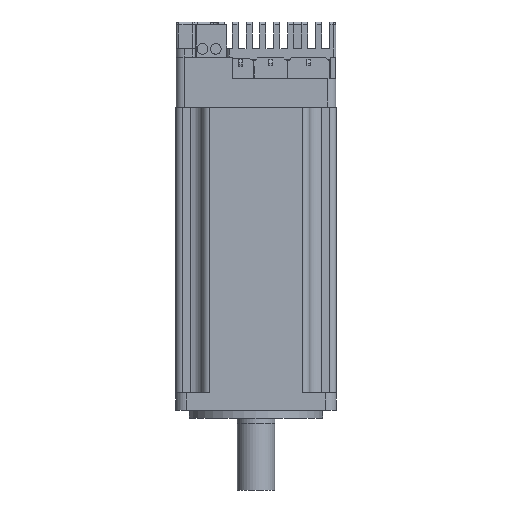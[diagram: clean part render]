
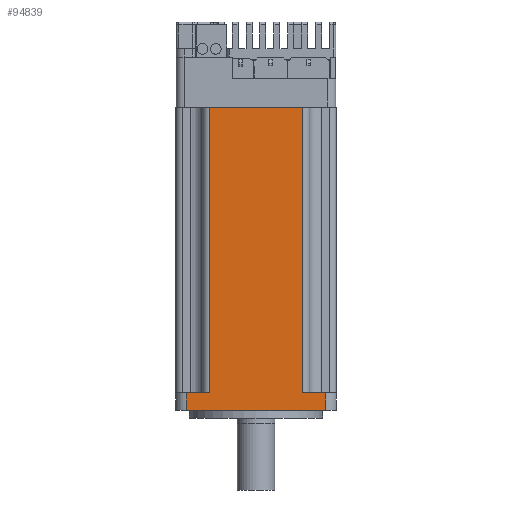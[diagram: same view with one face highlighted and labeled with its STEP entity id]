
A CAD part, front view. The second image highlights one B-rep face of the part: STEP entity #94839.
In plain terms, the highlighted planar face has unit normal (0, -1, 0).
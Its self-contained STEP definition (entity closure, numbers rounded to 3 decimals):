
#2929 = ORIENTED_EDGE ( 'NONE', *, *, #95736, .F. ) ;
#4703 = CARTESIAN_POINT ( 'NONE',  ( 26.15, -30.15, 6.5 ) ) ;
#5741 = LINE ( 'NONE', #54545, #34495 ) ;
#6735 = VERTEX_POINT ( 'NONE', #7236 ) ;
#7039 = VECTOR ( 'NONE', #50778, 1000. ) ;
#7236 = CARTESIAN_POINT ( 'NONE',  ( 26.15, -30.15, 6.5 ) ) ;
#7649 = CARTESIAN_POINT ( 'NONE',  ( -26.15, -30.15, 0. ) ) ;
#8758 = ORIENTED_EDGE ( 'NONE', *, *, #59516, .F. ) ;
#10835 = LINE ( 'NONE', #38019, #116204 ) ;
#14003 = VECTOR ( 'NONE', #108603, 1000. ) ;
#15014 = VERTEX_POINT ( 'NONE', #7649 ) ;
#15340 = CARTESIAN_POINT ( 'NONE',  ( 17.65, -30.15, 113.9 ) ) ;
#22015 = ORIENTED_EDGE ( 'NONE', *, *, #61504, .F. ) ;
#22708 = EDGE_LOOP ( 'NONE', ( #91336, #124112, #8758, #37403, #22015, #81876, #2929, #154540 ) ) ;
#29528 = VECTOR ( 'NONE', #40775, 1000. ) ;
#34495 = VECTOR ( 'NONE', #91246, 1000. ) ;
#35494 = VERTEX_POINT ( 'NONE', #72161 ) ;
#37403 = ORIENTED_EDGE ( 'NONE', *, *, #69318, .F. ) ;
#38019 = CARTESIAN_POINT ( 'NONE',  ( 17.65, -30.15, 113.9 ) ) ;
#40775 = DIRECTION ( 'NONE',  ( 0., 0., -1. ) ) ;
#41873 = CARTESIAN_POINT ( 'NONE',  ( -26.15, -30.15, 6.5 ) ) ;
#42037 = VECTOR ( 'NONE', #150471, 1000. ) ;
#44298 = LINE ( 'NONE', #129702, #57385 ) ;
#46415 = VERTEX_POINT ( 'NONE', #66220 ) ;
#50581 = AXIS2_PLACEMENT_3D ( 'NONE', #68183, #151382, #127358 ) ;
#50778 = DIRECTION ( 'NONE',  ( 1., 0., 0. ) ) ;
#54545 = CARTESIAN_POINT ( 'NONE',  ( -17.65, -30.15, 113.9 ) ) ;
#54637 = VERTEX_POINT ( 'NONE', #70889 ) ;
#57385 = VECTOR ( 'NONE', #151349, 1000. ) ;
#59435 = VERTEX_POINT ( 'NONE', #15340 ) ;
#59516 = EDGE_CURVE ( 'NONE', #130205, #6735, #156611, .T. ) ;
#61504 = EDGE_CURVE ( 'NONE', #154975, #59435, #112909, .T. ) ;
#64686 = LINE ( 'NONE', #4703, #29528 ) ;
#66220 = CARTESIAN_POINT ( 'NONE',  ( -26.15, -30.15, 6.5 ) ) ;
#68183 = CARTESIAN_POINT ( 'NONE',  ( 26.15, -30.15, 6.5 ) ) ;
#69318 = EDGE_CURVE ( 'NONE', #59435, #130205, #10835, .T. ) ;
#70889 = CARTESIAN_POINT ( 'NONE',  ( 26.15, -30.15, 0. ) ) ;
#72161 = CARTESIAN_POINT ( 'NONE',  ( -17.65, -30.15, 6.5 ) ) ;
#73866 = DIRECTION ( 'NONE',  ( 0., 0., -1. ) ) ;
#81876 = ORIENTED_EDGE ( 'NONE', *, *, #136540, .T. ) ;
#85035 = CARTESIAN_POINT ( 'NONE',  ( -17.65, -30.15, 113.9 ) ) ;
#88941 = VECTOR ( 'NONE', #97062, 1000. ) ;
#89090 = LINE ( 'NONE', #125853, #7039 ) ;
#91246 = DIRECTION ( 'NONE',  ( 0., 0., -1. ) ) ;
#91336 = ORIENTED_EDGE ( 'NONE', *, *, #128487, .T. ) ;
#94839 = ADVANCED_FACE ( 'NONE', ( #115330 ), #150599, .F. ) ;
#95736 = EDGE_CURVE ( 'NONE', #46415, #35494, #89090, .T. ) ;
#97062 = DIRECTION ( 'NONE',  ( 1., 0., 0. ) ) ;
#98267 = CARTESIAN_POINT ( 'NONE',  ( -17.65, -30.15, 113.9 ) ) ;
#108554 = CARTESIAN_POINT ( 'NONE',  ( 17.65, -30.15, 6.5 ) ) ;
#108603 = DIRECTION ( 'NONE',  ( 1., 0., 0. ) ) ;
#109604 = EDGE_CURVE ( 'NONE', #6735, #54637, #64686, .T. ) ;
#112909 = LINE ( 'NONE', #85035, #88941 ) ;
#115330 = FACE_OUTER_BOUND ( 'NONE', #22708, .T. ) ;
#116204 = VECTOR ( 'NONE', #73866, 1000. ) ;
#119825 = CARTESIAN_POINT ( 'NONE',  ( -17.65, -30.15, 6.5 ) ) ;
#124112 = ORIENTED_EDGE ( 'NONE', *, *, #109604, .F. ) ;
#125853 = CARTESIAN_POINT ( 'NONE',  ( -17.65, -30.15, 6.5 ) ) ;
#126464 = LINE ( 'NONE', #41873, #42037 ) ;
#127358 = DIRECTION ( 'NONE',  ( 0., 0., 1. ) ) ;
#128487 = EDGE_CURVE ( 'NONE', #15014, #54637, #44298, .T. ) ;
#129702 = CARTESIAN_POINT ( 'NONE',  ( 26.15, -30.15, 0. ) ) ;
#130205 = VERTEX_POINT ( 'NONE', #108554 ) ;
#136540 = EDGE_CURVE ( 'NONE', #154975, #35494, #5741, .T. ) ;
#150471 = DIRECTION ( 'NONE',  ( 0., 0., -1. ) ) ;
#150599 = PLANE ( 'NONE',  #50581 ) ;
#150985 = EDGE_CURVE ( 'NONE', #46415, #15014, #126464, .T. ) ;
#151349 = DIRECTION ( 'NONE',  ( 1., 0., 0. ) ) ;
#151382 = DIRECTION ( 'NONE',  ( 0., 1., 0. ) ) ;
#154540 = ORIENTED_EDGE ( 'NONE', *, *, #150985, .T. ) ;
#154975 = VERTEX_POINT ( 'NONE', #98267 ) ;
#156611 = LINE ( 'NONE', #119825, #14003 ) ;
